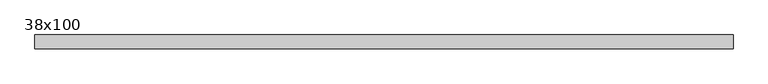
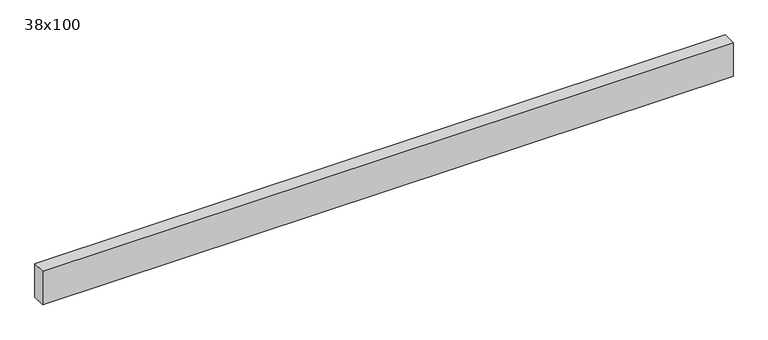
"""IFC4 building model written with IfcOpenShell, lengths in millimetres: beam geometry, Poutre - Bois de construction de dimensions courantes : 38x100."""

from ifc_helpers import new_model, si_unit, frame, origin, place, context, project, spatial, polyline, outline, extrude, source, transform, mapped, element, save


def beam_38x100_cb22cdf6(model_context):
    return source(origin(), model_context, "Body", "SweptSolid", [
        extrude(outline(polyline([(993.0, 19.05), (993.0, -19.05), (-949.0, -19.05), (-949.0, 19.05), (993.0, 19.05)])), frame((0.0, 0.0, -50.0), z_axis=(0.0, 0.0, 1.0), x_axis=(1.0, 0.0, 0.0)), (0.0, 0.0, 1.0), 100.0),
    ])


if __name__ == "__main__":
    model = new_model("IFC4")
    model_context = context("Model", 3, world=origin())
    ifc_project = project(units=[si_unit("LENGTHUNIT", "METRE", prefix="MILLI")], contexts=[model_context])
    site = spatial("IfcSite", under=ifc_project)
    building = spatial("IfcBuilding", under=site)
    placement = place(None, origin())
    beam_38x100_shape = beam_38x100_cb22cdf6(model_context)
    element("IfcBeam", 1, ObjectType="Poutre - Bois de construction de dimensions courantes : 38x100", at=placement, inside=building, context=model_context, shape_type="MappedRepresentation", body=[
        mapped(beam_38x100_shape, transform((0.0, 0.0, 0.0), x_axis=(1.0, 0.0, 0.0), y_axis=(0.0, 1.0, 0.0), z_axis=(0.0, 0.0, 1.0))),
    ])
    save(model, "model.ifc")
